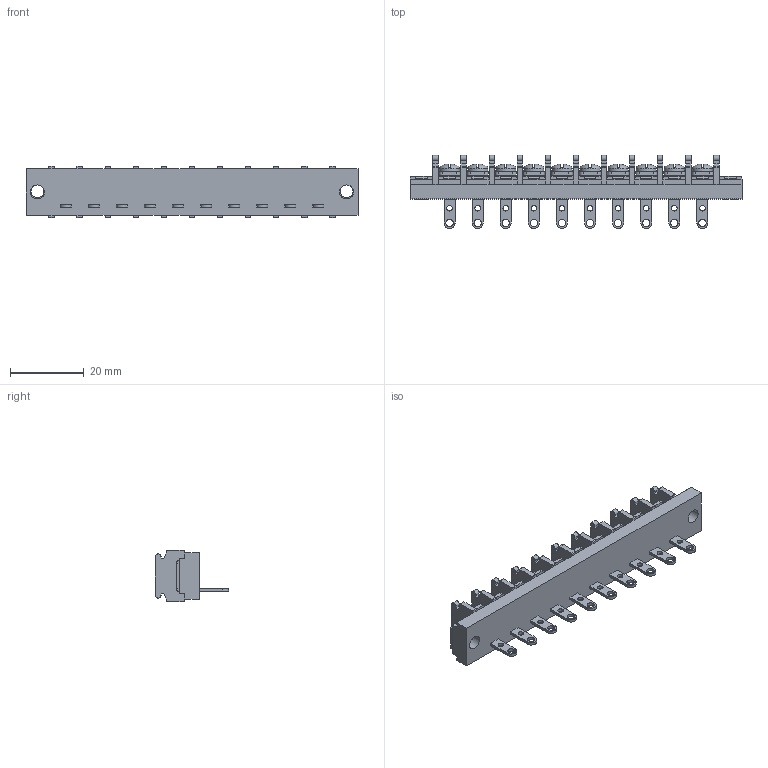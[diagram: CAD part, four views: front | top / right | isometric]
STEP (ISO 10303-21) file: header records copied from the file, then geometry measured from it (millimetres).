
FILE_DESCRIPTION(/* description */ ('Alibre Inc.'),/* implementation_level */ '2;1');
FILE_NAME(/* name */ 'export0',/* time_stamp */ '2015-10-23T20:03:31+09:00',/* author */ (''),/* organization */ (''),/* preprocessor_version */ 'ST-DEVELOPER v14',/* originating_system */ 'Alibre',/* authorisation */ '');
FILE_SCHEMA (('CONFIG_CONTROL_DESIGN'));
Length unit declared in the file: centimetre
Products named in the file (1): ID_1
Bounding box: 90.02 x 19.8 x 14 mm (x, y, z)
Volume: 8189.3 mm3; surface area: 8051.2 mm2
Topology: 1 solids, 17 shells, 1612 faces, 4410 edges, 2894 vertices
Faces by surface type: plane 1234, cylinder 194, bspline 104, cone 40, torus 20, sphere 20
Full cylindrical faces by diameter (mm): 1.5 x10, 2 x10, 3 x10, 3.5 x2, 3.8 x2, 5.5 x10
Entity records: 48423 total; most frequent: CARTESIAN_POINT 10407, ORIENTED_EDGE 8604, DIRECTION 6164, EDGE_CURVE 4302, VECTOR 3092, LINE 3092, VERTEX_POINT 2850, AXIS2_PLACEMENT_3D 2097
